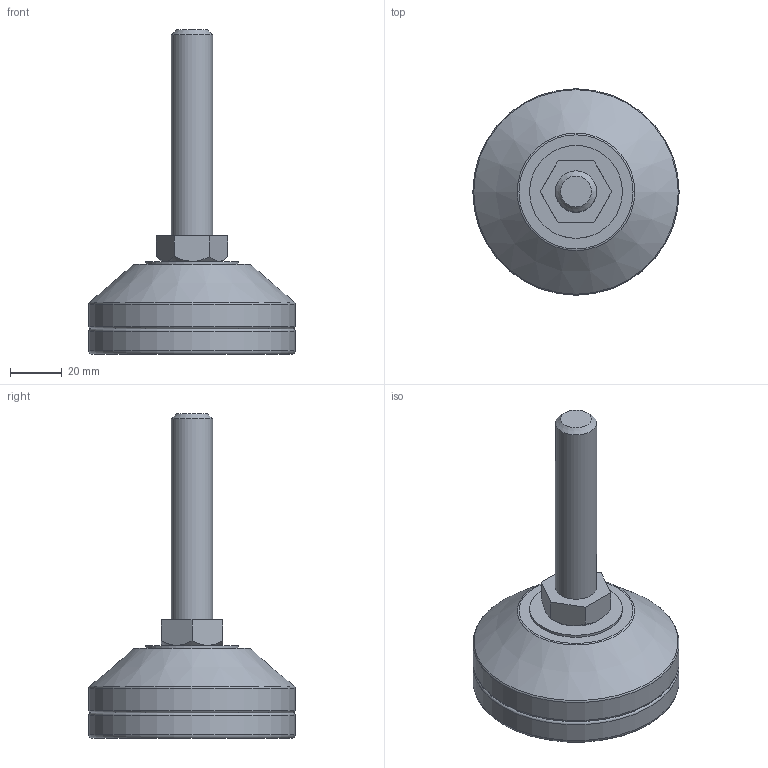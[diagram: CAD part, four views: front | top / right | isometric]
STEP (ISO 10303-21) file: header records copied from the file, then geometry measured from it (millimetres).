
FILE_DESCRIPTION(/* description */ (''),/* implementation_level */ '2;1');
FILE_NAME(/* name */ 'D:\조절자\FR\FR-M16-80L.stp',/* time_stamp */ '2016-03-14T14:38:53+09:00',/* author */ ('GS-DT-1-001'),/* organization */ (''),/* preprocessor_version */ 'ST-DEVELOPER v15.6',/* originating_system */ 'Autodesk Inventor LT ',/* authorisation */ '');
FILE_SCHEMA (('AUTOMOTIVE_DESIGN { 1 0 10303 214 3 1 1 }'));
Length unit declared in the file: millimetre
Products named in the file (1): FR-M16-80L
Bounding box: 80 x 80 x 126 mm (x, y, z)
Volume: 139029.7 mm3; surface area: 31440.2 mm2
Topology: 1 solids, 5 shells, 50 faces, 87 edges, 53 vertices
Faces by surface type: plane 22, cylinder 14, cone 8, torus 6
Full cylindrical faces by diameter (mm): 6.912 x1, 8 x1, 8.2 x1, 8.3 x1, 16 x2, 36 x1, 50 x1, 57 x1, 61 x1, 71 x1, 75 x1, 80 x2
Entity records: 1060 total; most frequent: DIRECTION 194, CARTESIAN_POINT 173, ORIENTED_EDGE 116, AXIS2_PLACEMENT_3D 91, EDGE_LOOP 88, EDGE_CURVE 58, VERTEX_POINT 52, FACE_OUTER_BOUND 50
